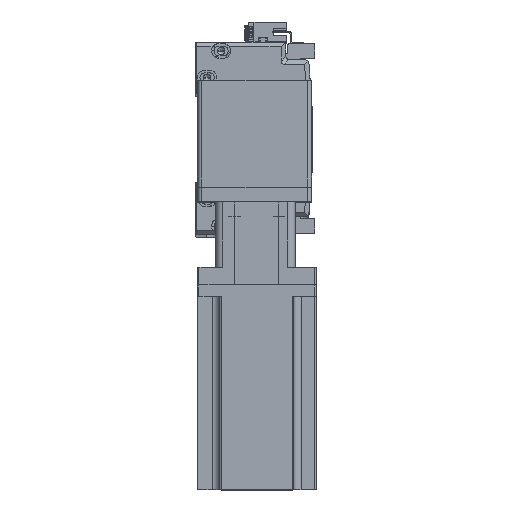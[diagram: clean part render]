
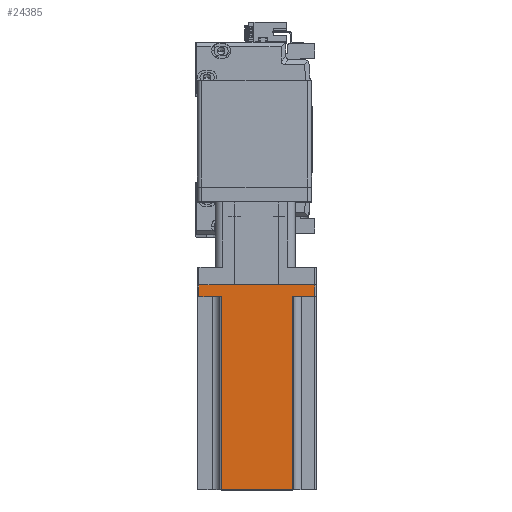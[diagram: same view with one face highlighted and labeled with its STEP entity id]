
A CAD part, top view. The second image highlights one B-rep face of the part: STEP entity #24385.
In plain terms, the highlighted planar face has unit normal (0, 0, 1) as drawn and (0, 1, 0) by its records, which use the part's own axes.
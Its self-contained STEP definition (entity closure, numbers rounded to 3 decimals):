
#646 = CARTESIAN_POINT ( 'NONE',  ( 40., 40., 0. ) ) ;
#759 = CARTESIAN_POINT ( 'NONE',  ( -24., 40., 8. ) ) ;
#866 = DIRECTION ( 'NONE',  ( 0., 0., -1. ) ) ;
#1711 = CARTESIAN_POINT ( 'NONE',  ( -39., 40., 138.3 ) ) ;
#1805 = CARTESIAN_POINT ( 'NONE',  ( 24., 40., 138.3 ) ) ;
#2411 = VERTEX_POINT ( 'NONE', #45908 ) ;
#2597 = CARTESIAN_POINT ( 'NONE',  ( -39., 40., 0. ) ) ;
#3058 = ORIENTED_EDGE ( 'NONE', *, *, #28866, .T. ) ;
#5089 = VECTOR ( 'NONE', #16165, 1000. ) ;
#5925 = LINE ( 'NONE', #1805, #45486 ) ;
#6362 = EDGE_CURVE ( 'NONE', #24248, #35941, #15739, .T. ) ;
#8855 = VECTOR ( 'NONE', #16407, 1000. ) ;
#9036 = ORIENTED_EDGE ( 'NONE', *, *, #27932, .T. ) ;
#10151 = VECTOR ( 'NONE', #866, 1000. ) ;
#10190 = CARTESIAN_POINT ( 'NONE',  ( -39., 40., 8. ) ) ;
#10411 = CARTESIAN_POINT ( 'NONE',  ( 40., 40., 138.3 ) ) ;
#11709 = CARTESIAN_POINT ( 'NONE',  ( -24., 40., 138.3 ) ) ;
#12423 = EDGE_CURVE ( 'NONE', #13603, #38246, #29408, .T. ) ;
#13603 = VERTEX_POINT ( 'NONE', #46405 ) ;
#14312 = DIRECTION ( 'NONE',  ( 1., 0., 0. ) ) ;
#14696 = VECTOR ( 'NONE', #32286, 1000. ) ;
#15531 = DIRECTION ( 'NONE',  ( 0., 0., 1. ) ) ;
#15739 = LINE ( 'NONE', #15810, #24712 ) ;
#15810 = CARTESIAN_POINT ( 'NONE',  ( -24., 40., 138.3 ) ) ;
#16165 = DIRECTION ( 'NONE',  ( -1., 0., 0. ) ) ;
#16407 = DIRECTION ( 'NONE',  ( 1., 0., 0. ) ) ;
#16694 = ORIENTED_EDGE ( 'NONE', *, *, #20192, .F. ) ;
#16912 = VERTEX_POINT ( 'NONE', #41518 ) ;
#17651 = EDGE_LOOP ( 'NONE', ( #21936, #30860, #39378, #9036, #16694, #31842, #30123, #3058 ) ) ;
#19639 = VERTEX_POINT ( 'NONE', #10190 ) ;
#20192 = EDGE_CURVE ( 'NONE', #13603, #2411, #41409, .T. ) ;
#20355 = CARTESIAN_POINT ( 'NONE',  ( 40., 40., 138.3 ) ) ;
#20935 = EDGE_CURVE ( 'NONE', #38246, #45176, #31559, .T. ) ;
#21131 = DIRECTION ( 'NONE',  ( 0., 0., -1. ) ) ;
#21936 = ORIENTED_EDGE ( 'NONE', *, *, #32089, .T. ) ;
#23678 = LINE ( 'NONE', #1711, #14696 ) ;
#23912 = CARTESIAN_POINT ( 'NONE',  ( 39., 40., 138.3 ) ) ;
#24248 = VERTEX_POINT ( 'NONE', #759 ) ;
#24385 = ADVANCED_FACE ( 'NONE', ( #32244 ), #44782, .F. ) ;
#24712 = VECTOR ( 'NONE', #15531, 1000. ) ;
#25807 = CARTESIAN_POINT ( 'NONE',  ( 25., 40., 8. ) ) ;
#26882 = AXIS2_PLACEMENT_3D ( 'NONE', #10411, #37279, #14312 ) ;
#27932 = EDGE_CURVE ( 'NONE', #16912, #2411, #5925, .T. ) ;
#28866 = EDGE_CURVE ( 'NONE', #45176, #19639, #23678, .T. ) ;
#29408 = LINE ( 'NONE', #23912, #10151 ) ;
#30123 = ORIENTED_EDGE ( 'NONE', *, *, #20935, .T. ) ;
#30860 = ORIENTED_EDGE ( 'NONE', *, *, #6362, .T. ) ;
#31300 = VECTOR ( 'NONE', #37332, 1000. ) ;
#31559 = LINE ( 'NONE', #646, #5089 ) ;
#31842 = ORIENTED_EDGE ( 'NONE', *, *, #12423, .T. ) ;
#32089 = EDGE_CURVE ( 'NONE', #19639, #24248, #49602, .T. ) ;
#32108 = DIRECTION ( 'NONE',  ( -1., 0., 0. ) ) ;
#32244 = FACE_OUTER_BOUND ( 'NONE', #17651, .T. ) ;
#32286 = DIRECTION ( 'NONE',  ( 0., 0., 1. ) ) ;
#33001 = VECTOR ( 'NONE', #32108, 1000. ) ;
#34468 = CARTESIAN_POINT ( 'NONE',  ( 39., 40., 0. ) ) ;
#35941 = VERTEX_POINT ( 'NONE', #11709 ) ;
#37279 = DIRECTION ( 'NONE',  ( 0., -1., 0. ) ) ;
#37332 = DIRECTION ( 'NONE',  ( -1., 0., 0. ) ) ;
#38246 = VERTEX_POINT ( 'NONE', #34468 ) ;
#39378 = ORIENTED_EDGE ( 'NONE', *, *, #47212, .F. ) ;
#41409 = LINE ( 'NONE', #25807, #31300 ) ;
#41518 = CARTESIAN_POINT ( 'NONE',  ( 24., 40., 138.3 ) ) ;
#43117 = CARTESIAN_POINT ( 'NONE',  ( -25., 40., 8. ) ) ;
#43122 = LINE ( 'NONE', #20355, #33001 ) ;
#44782 = PLANE ( 'NONE',  #26882 ) ;
#45176 = VERTEX_POINT ( 'NONE', #2597 ) ;
#45486 = VECTOR ( 'NONE', #21131, 1000. ) ;
#45908 = CARTESIAN_POINT ( 'NONE',  ( 24., 40., 8. ) ) ;
#46405 = CARTESIAN_POINT ( 'NONE',  ( 39., 40., 8. ) ) ;
#47212 = EDGE_CURVE ( 'NONE', #16912, #35941, #43122, .T. ) ;
#49602 = LINE ( 'NONE', #43117, #8855 ) ;
